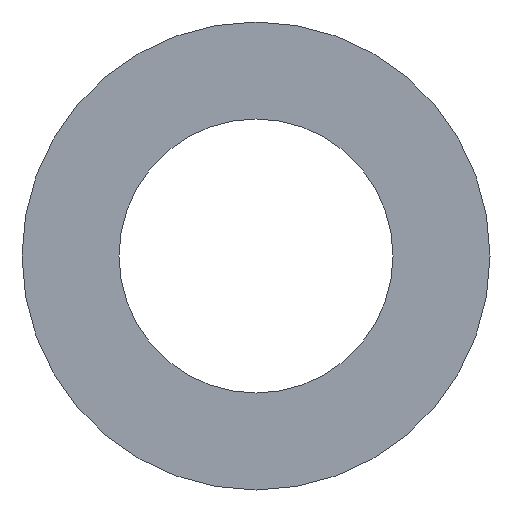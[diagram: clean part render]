
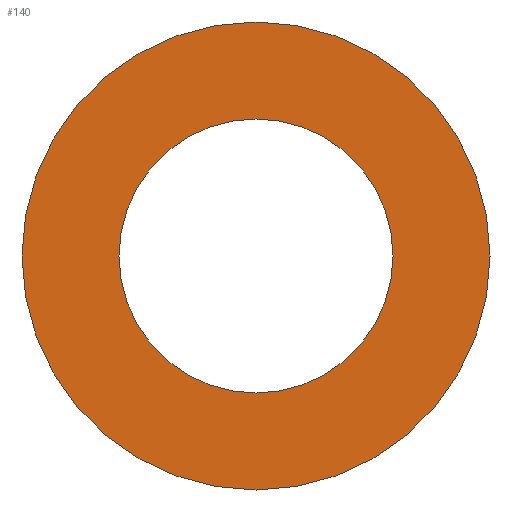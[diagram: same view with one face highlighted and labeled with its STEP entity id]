
A CAD part, front view. The second image highlights one B-rep face of the part: STEP entity #140.
In plain terms, the highlighted planar face has unit normal (0, -1, 0).
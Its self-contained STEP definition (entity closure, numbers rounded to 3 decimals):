
#31 = CYLINDRICAL_SURFACE('',#32,7.);
#32 = AXIS2_PLACEMENT_3D('',#33,#34,#35);
#33 = CARTESIAN_POINT('',(145.,-93.913,135.));
#34 = DIRECTION('',(0.,1.,0.));
#35 = DIRECTION('',(0.,-0.,1.));
#56 = VERTEX_POINT('',#57);
#57 = CARTESIAN_POINT('',(145.,-93.913,142.));
#78 = EDGE_CURVE('',#56,#56,#79,.T.);
#79 = SURFACE_CURVE('',#80,(#85,#92),.PCURVE_S1.);
#80 = CIRCLE('',#81,7.);
#81 = AXIS2_PLACEMENT_3D('',#82,#83,#84);
#82 = CARTESIAN_POINT('',(145.,-93.913,135.));
#83 = DIRECTION('',(0.,1.,0.));
#84 = DIRECTION('',(0.,-0.,1.));
#85 = PCURVE('',#31,#86);
#86 = DEFINITIONAL_REPRESENTATION('',(#87),#91);
#87 = LINE('',#88,#89);
#88 = CARTESIAN_POINT('',(0.,0.));
#89 = VECTOR('',#90,1.);
#90 = DIRECTION('',(1.,0.));
#91 = ( GEOMETRIC_REPRESENTATION_CONTEXT(2) 
PARAMETRIC_REPRESENTATION_CONTEXT() REPRESENTATION_CONTEXT('2D SPACE',''
  ) );
#92 = PCURVE('',#93,#98);
#93 = PLANE('',#94);
#94 = AXIS2_PLACEMENT_3D('',#95,#96,#97);
#95 = CARTESIAN_POINT('',(145.,-93.913,135.));
#96 = DIRECTION('',(0.,1.,0.));
#97 = DIRECTION('',(0.,-0.,1.));
#98 = DEFINITIONAL_REPRESENTATION('',(#99),#103);
#99 = CIRCLE('',#100,7.);
#100 = AXIS2_PLACEMENT_2D('',#101,#102);
#101 = CARTESIAN_POINT('',(0.,0.));
#102 = DIRECTION('',(1.,0.));
#103 = ( GEOMETRIC_REPRESENTATION_CONTEXT(2) 
PARAMETRIC_REPRESENTATION_CONTEXT() REPRESENTATION_CONTEXT('2D SPACE',''
  ) );
#129 = CYLINDRICAL_SURFACE('',#130,4.1);
#130 = AXIS2_PLACEMENT_3D('',#131,#132,#133);
#131 = CARTESIAN_POINT('',(145.,-93.913,135.));
#132 = DIRECTION('',(0.,1.,0.));
#133 = DIRECTION('',(0.,-0.,1.));
#140 = ADVANCED_FACE('',(#141,#144),#93,.F.);
#141 = FACE_BOUND('',#142,.F.);
#142 = EDGE_LOOP('',(#143));
#143 = ORIENTED_EDGE('',*,*,#78,.T.);
#144 = FACE_BOUND('',#145,.F.);
#145 = EDGE_LOOP('',(#146));
#146 = ORIENTED_EDGE('',*,*,#147,.F.);
#147 = EDGE_CURVE('',#148,#148,#150,.T.);
#148 = VERTEX_POINT('',#149);
#149 = CARTESIAN_POINT('',(145.,-93.913,139.1));
#150 = SURFACE_CURVE('',#151,(#156,#163),.PCURVE_S1.);
#151 = CIRCLE('',#152,4.1);
#152 = AXIS2_PLACEMENT_3D('',#153,#154,#155);
#153 = CARTESIAN_POINT('',(145.,-93.913,135.));
#154 = DIRECTION('',(0.,1.,0.));
#155 = DIRECTION('',(0.,-0.,1.));
#156 = PCURVE('',#93,#157);
#157 = DEFINITIONAL_REPRESENTATION('',(#158),#162);
#158 = CIRCLE('',#159,4.1);
#159 = AXIS2_PLACEMENT_2D('',#160,#161);
#160 = CARTESIAN_POINT('',(0.,0.));
#161 = DIRECTION('',(1.,0.));
#162 = ( GEOMETRIC_REPRESENTATION_CONTEXT(2) 
PARAMETRIC_REPRESENTATION_CONTEXT() REPRESENTATION_CONTEXT('2D SPACE',''
  ) );
#163 = PCURVE('',#129,#164);
#164 = DEFINITIONAL_REPRESENTATION('',(#165),#169);
#165 = LINE('',#166,#167);
#166 = CARTESIAN_POINT('',(0.,0.));
#167 = VECTOR('',#168,1.);
#168 = DIRECTION('',(1.,0.));
#169 = ( GEOMETRIC_REPRESENTATION_CONTEXT(2) 
PARAMETRIC_REPRESENTATION_CONTEXT() REPRESENTATION_CONTEXT('2D SPACE',''
  ) );
